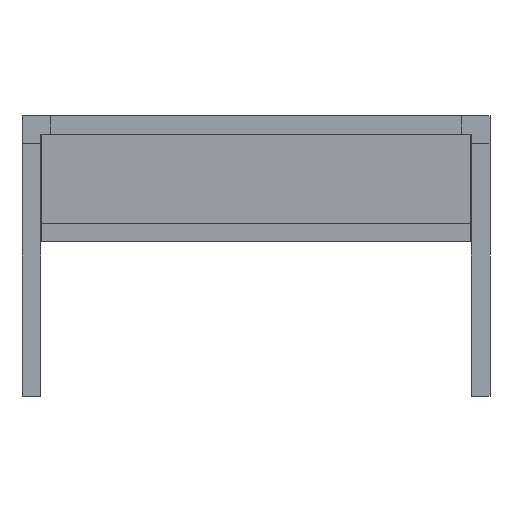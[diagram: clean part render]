
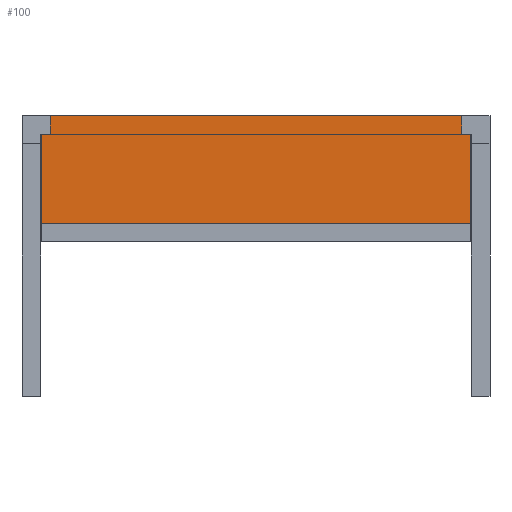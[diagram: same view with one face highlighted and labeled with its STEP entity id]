
A CAD part, front view. The second image highlights one B-rep face of the part: STEP entity #100.
In plain terms, the highlighted planar face has unit normal (0, -1, 0).
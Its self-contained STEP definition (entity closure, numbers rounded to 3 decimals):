
#100 = ADVANCED_FACE( '', ( #218 ), #219, .F. );
#218 = FACE_OUTER_BOUND( '', #351, .T. );
#219 = PLANE( '', #352 );
#351 = EDGE_LOOP( '', ( #586, #587, #588, #589, #590, #591, #592, #593 ) );
#352 = AXIS2_PLACEMENT_3D( '', #594, #595, #596 );
#586 = ORIENTED_EDGE( '', *, *, #887, .F. );
#587 = ORIENTED_EDGE( '', *, *, #918, .F. );
#588 = ORIENTED_EDGE( '', *, *, #865, .T. );
#589 = ORIENTED_EDGE( '', *, *, #919, .F. );
#590 = ORIENTED_EDGE( '', *, *, #920, .T. );
#591 = ORIENTED_EDGE( '', *, *, #921, .T. );
#592 = ORIENTED_EDGE( '', *, *, #922, .T. );
#593 = ORIENTED_EDGE( '', *, *, #923, .T. );
#594 = CARTESIAN_POINT( '', ( 22., 23., 13.5 ) );
#595 = DIRECTION( '', ( 0., 1., 0. ) );
#596 = DIRECTION( '', ( 0., 0., 1. ) );
#865 = EDGE_CURVE( '', #1051, #1048, #1052, .T. );
#887 = EDGE_CURVE( '', #1089, #1090, #1091, .T. );
#918 = EDGE_CURVE( '', #1051, #1089, #1135, .T. );
#919 = EDGE_CURVE( '', #1136, #1048, #1137, .T. );
#920 = EDGE_CURVE( '', #1136, #1138, #1139, .T. );
#921 = EDGE_CURVE( '', #1138, #1140, #1141, .T. );
#922 = EDGE_CURVE( '', #1140, #1142, #1143, .T. );
#923 = EDGE_CURVE( '', #1142, #1090, #1144, .T. );
#1048 = VERTEX_POINT( '', #1312 );
#1051 = VERTEX_POINT( '', #1316 );
#1052 = LINE( '', #1317, #1318 );
#1089 = VERTEX_POINT( '', #1373 );
#1090 = VERTEX_POINT( '', #1374 );
#1091 = LINE( '', #1375, #1376 );
#1135 = LINE( '', #1443, #1444 );
#1136 = VERTEX_POINT( '', #1445 );
#1137 = LINE( '', #1446, #1447 );
#1138 = VERTEX_POINT( '', #1448 );
#1139 = LINE( '', #1449, #1450 );
#1140 = VERTEX_POINT( '', #1451 );
#1141 = LINE( '', #1452, #1453 );
#1142 = VERTEX_POINT( '', #1454 );
#1143 = LINE( '', #1455, #1456 );
#1144 = LINE( '', #1457, #1458 );
#1312 = CARTESIAN_POINT( '', ( 22., 23., 11.5 ) );
#1316 = CARTESIAN_POINT( '', ( 22.95, 23., 11.5 ) );
#1317 = CARTESIAN_POINT( '', ( 22.95, 23., 11.5 ) );
#1318 = VECTOR( '', #1599, 1000. );
#1373 = CARTESIAN_POINT( '', ( 22.95, 23., 2. ) );
#1374 = CARTESIAN_POINT( '', ( -22.95, 23., 2. ) );
#1375 = CARTESIAN_POINT( '', ( 22., 23., 2. ) );
#1376 = VECTOR( '', #1618, 1000. );
#1443 = CARTESIAN_POINT( '', ( 22.95, 23., 11.5 ) );
#1444 = VECTOR( '', #1642, 1000. );
#1445 = CARTESIAN_POINT( '', ( 22., 23., 13.5 ) );
#1446 = CARTESIAN_POINT( '', ( 22., 23., 13.5 ) );
#1447 = VECTOR( '', #1643, 1000. );
#1448 = CARTESIAN_POINT( '', ( -22., 23., 13.5 ) );
#1449 = CARTESIAN_POINT( '', ( 22., 23., 13.5 ) );
#1450 = VECTOR( '', #1644, 1000. );
#1451 = CARTESIAN_POINT( '', ( -22., 23., 11.5 ) );
#1452 = CARTESIAN_POINT( '', ( -22., 23., 13.5 ) );
#1453 = VECTOR( '', #1645, 1000. );
#1454 = CARTESIAN_POINT( '', ( -22.95, 23., 11.5 ) );
#1455 = CARTESIAN_POINT( '', ( 22.95, 23., 11.5 ) );
#1456 = VECTOR( '', #1646, 1000. );
#1457 = CARTESIAN_POINT( '', ( -22.95, 23., 11.5 ) );
#1458 = VECTOR( '', #1647, 1000. );
#1599 = DIRECTION( '', ( -1., 0., 0. ) );
#1618 = DIRECTION( '', ( -1., 0., 0. ) );
#1642 = DIRECTION( '', ( 0., 0., -1. ) );
#1643 = DIRECTION( '', ( 0., 0., -1. ) );
#1644 = DIRECTION( '', ( -1., 0., 0. ) );
#1645 = DIRECTION( '', ( 0., 0., -1. ) );
#1646 = DIRECTION( '', ( -1., 0., 0. ) );
#1647 = DIRECTION( '', ( 0., 0., -1. ) );
